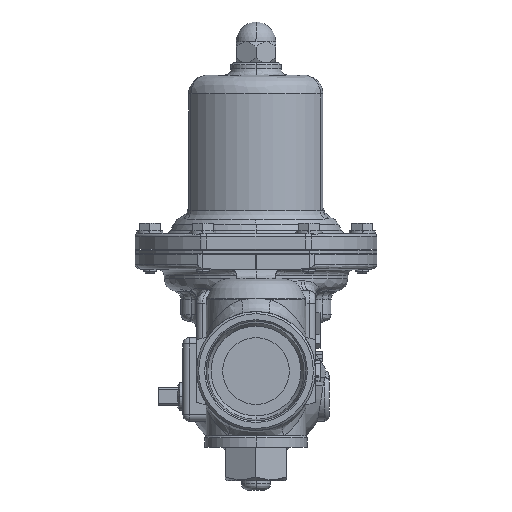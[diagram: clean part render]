
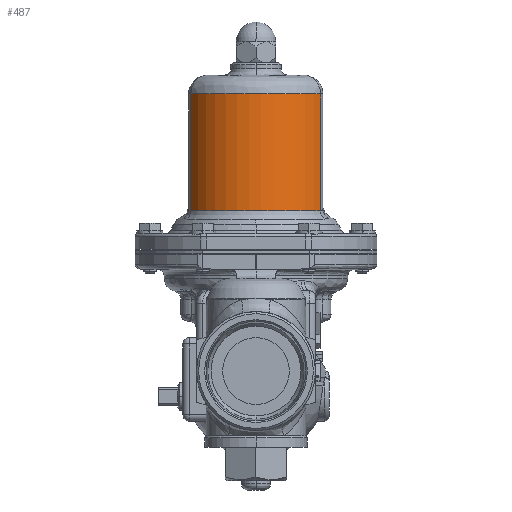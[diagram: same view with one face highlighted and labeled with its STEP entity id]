
A CAD part, left-side view. The second image highlights one B-rep face of the part: STEP entity #487.
In plain terms, the highlighted cylindrical face has radius 35.568 mm (diameter 71.135 mm), a partial arc.
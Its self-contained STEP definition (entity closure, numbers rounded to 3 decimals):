
#487=ADVANCED_FACE('',(#1430),#1429,.T.);
#1429=CYLINDRICAL_SURFACE('',#6697,35.568);
#1430=FACE_OUTER_BOUND('',#6698,.T.);
#6694=CARTESIAN_POINT('',(0.,0.,0.));
#6695=DIRECTION('',(0.,0.,1.));
#6696=DIRECTION('',(1.,0.,0.));
#6697=AXIS2_PLACEMENT_3D('',#6694,#6695,#6696);
#6698=EDGE_LOOP('',(#12777,#12778,#12779,#12780));
#12777=ORIENTED_EDGE('',*,*,#15194,.T.);
#12778=ORIENTED_EDGE('',*,*,#15166,.T.);
#12779=ORIENTED_EDGE('',*,*,#15195,.T.);
#12780=ORIENTED_EDGE('',*,*,#15196,.T.);
#15166=EDGE_CURVE('',#17049,#17042,#17050,.T.);
#15194=EDGE_CURVE('',#17236,#17049,#17237,.T.);
#15195=EDGE_CURVE('',#17042,#17243,#17244,.T.);
#15196=EDGE_CURVE('',#17243,#17236,#17250,.T.);
#17042=VERTEX_POINT('',#25112);
#17049=VERTEX_POINT('',#25117);
#17050=CIRCLE('',#25121,35.568);
#17236=VERTEX_POINT('',#25264);
#17237=LINE('',#25265,#25266);
#17243=VERTEX_POINT('',#25268);
#17244=LINE('',#25269,#25270);
#17250=CIRCLE('',#25275,35.568);
#25112=CARTESIAN_POINT('',(-17.569,-30.925,20.033));
#25117=CARTESIAN_POINT('',(-17.09,31.193,20.033));
#25118=CARTESIAN_POINT('',(0.,0.,20.033));
#25119=DIRECTION('',(0.,0.,1.));
#25120=DIRECTION('',(-0.48,0.877,0.));
#25121=AXIS2_PLACEMENT_3D('',#25118,#25119,#25120);
#25264=CARTESIAN_POINT('',(-17.09,31.193,76.));
#25265=CARTESIAN_POINT('',(-17.09,31.193,76.));
#25266=VECTOR('',#25267,55.967);
#25267=DIRECTION('',(0.,0.,-1.));
#25268=CARTESIAN_POINT('',(-17.569,-30.925,76.));
#25269=CARTESIAN_POINT('',(-17.569,-30.925,20.033));
#25270=VECTOR('',#25271,55.967);
#25271=DIRECTION('',(0.,0.,1.));
#25272=CARTESIAN_POINT('',(0.,0.,76.));
#25273=DIRECTION('',(0.,0.,-1.));
#25274=DIRECTION('',(1.,0.,0.));
#25275=AXIS2_PLACEMENT_3D('',#25272,#25273,#25274);
